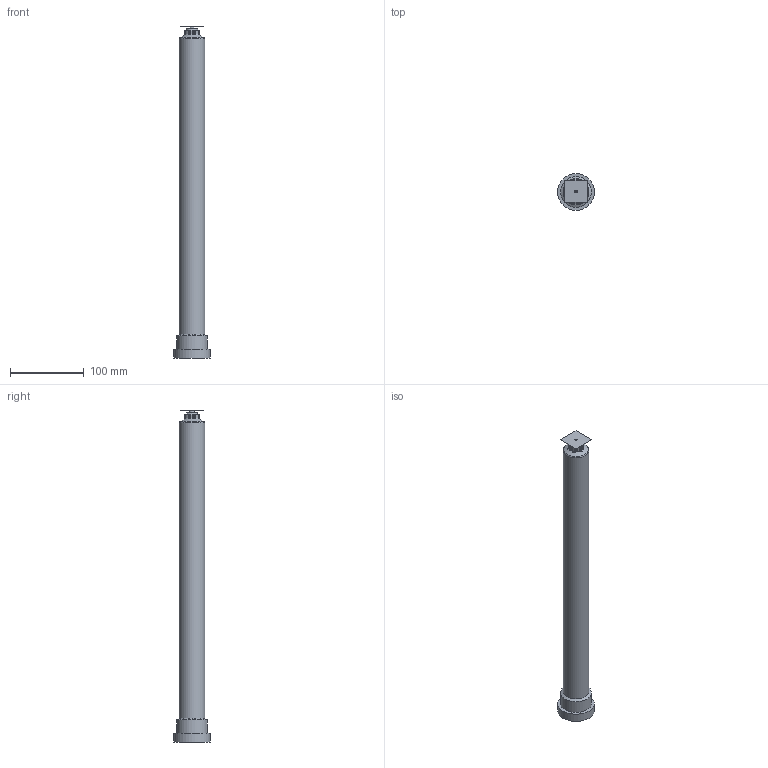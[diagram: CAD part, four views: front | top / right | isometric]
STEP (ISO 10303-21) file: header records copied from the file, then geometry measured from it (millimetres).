
FILE_DESCRIPTION (( 'STEP AP214' ), '1' );
FILE_NAME ('12E-06-450_TTW.STEP', '2020-11-17T06:41:06', ( '' ), ( '' ), 'SwSTEP 2.0', 'SolidWorks 2018', '' );
FILE_SCHEMA (( 'AUTOMOTIVE_DESIGN' ));
Length unit declared in the file: millimetre
Products named in the file (3): nozzle_12E-06-450-TTW; 12E-06-450_TTW; cutout_12E-06-450-TTW
Assembly tree (2 placements, depth 2):
  12E-06-450_TTW
    nozzle_12E-06-450-TTW
    cutout_12E-06-450-TTW
Bounding box: 50 x 50 x 450 mm (x, y, z)
Volume: 442269.4 mm3; surface area: 99985 mm2
Topology: 1 solids, 12 shells, 204 faces, 523 edges, 338 vertices
Faces by surface type: plane 93, cylinder 69, torus 28, cone 13, sphere 1
Full cylindrical faces by diameter (mm): 2 x2, 2.5 x1, 6 x2, 19.5 x1, 20 x3, 21 x1, 24 x1, 25 x1, 28 x1, 31 x1, 35 x1, 42 x1, 50 x1
Entity records: 6547 total; most frequent: CARTESIAN_POINT 1610, DIRECTION 1040, ORIENTED_EDGE 942, EDGE_CURVE 473, AXIS2_PLACEMENT_3D 400, VERTEX_POINT 328, EDGE_LOOP 256, VECTOR 240
